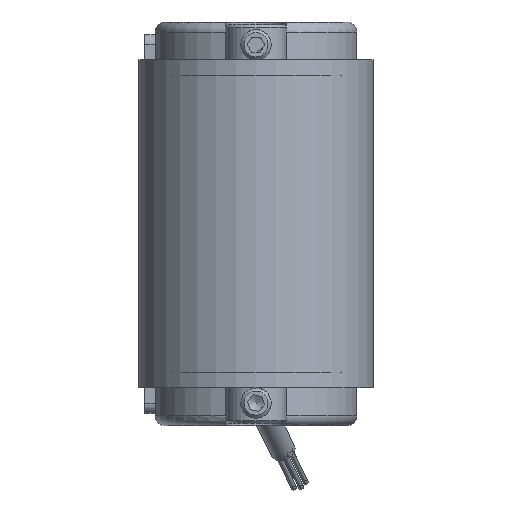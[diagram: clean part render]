
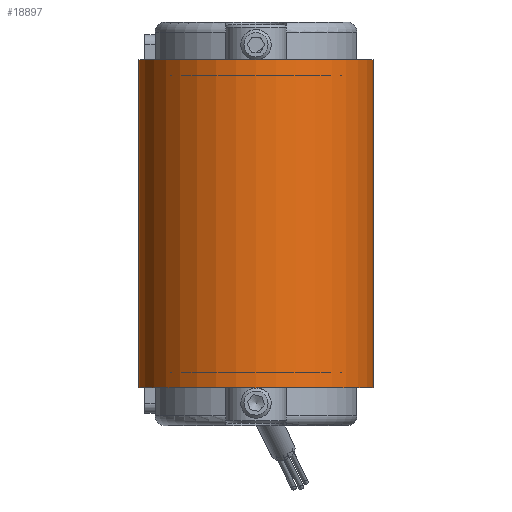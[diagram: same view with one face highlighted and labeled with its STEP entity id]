
A CAD part, front view. The second image highlights one B-rep face of the part: STEP entity #18897.
In plain terms, the highlighted cylindrical face has radius 23.3 mm (diameter 46.6 mm), a partial arc.
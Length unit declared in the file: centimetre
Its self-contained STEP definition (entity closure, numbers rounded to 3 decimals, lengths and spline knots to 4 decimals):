
#1478=FACE_OUTER_BOUND('',#2501,.T.);
#2501=EDGE_LOOP('',(#13037,#13038,#13039,#13040));
#3668=CIRCLE('',#20217,2.33);
#3671=CIRCLE('',#20223,2.33);
#4627=LINE('',#27806,#6163);
#4628=LINE('',#27810,#6164);
#6163=VECTOR('',#22807,1.);
#6164=VECTOR('',#22812,1.);
#7748=VERTEX_POINT('',#27789);
#7749=VERTEX_POINT('',#27790);
#7754=VERTEX_POINT('',#27804);
#7755=VERTEX_POINT('',#27808);
#9804=EDGE_CURVE('',#7748,#7749,#3668,.T.);
#9812=EDGE_CURVE('',#7754,#7749,#4627,.T.);
#9813=EDGE_CURVE('',#7754,#7755,#3671,.T.);
#9814=EDGE_CURVE('',#7748,#7755,#4628,.T.);
#13037=ORIENTED_EDGE('',*,*,#9813,.T.);
#13038=ORIENTED_EDGE('',*,*,#9814,.F.);
#13039=ORIENTED_EDGE('',*,*,#9804,.T.);
#13040=ORIENTED_EDGE('',*,*,#9812,.F.);
#17520=CYLINDRICAL_SURFACE('',#20222,2.33);
#18897=ADVANCED_FACE('',(#1478),#17520,.T.);
#20217=AXIS2_PLACEMENT_3D('',#27791,#22792,#22793);
#20222=AXIS2_PLACEMENT_3D('',#27807,#22808,#22809);
#20223=AXIS2_PLACEMENT_3D('',#27809,#22810,#22811);
#22792=DIRECTION('center_axis',(0.,0.,
-1.));
#22793=DIRECTION('ref_axis',(-1.,0.,0.));
#22807=DIRECTION('',(0.,0.,1.));
#22808=DIRECTION('center_axis',(0.,0.,
-1.));
#22809=DIRECTION('ref_axis',(-1.,0.,0.));
#22810=DIRECTION('center_axis',(0.,0.,
1.));
#22811=DIRECTION('ref_axis',(-1.,0.,0.));
#22812=DIRECTION('',(0.,0.,-1.));
#27789=CARTESIAN_POINT('',(2.33,-27.,3.25));
#27790=CARTESIAN_POINT('',(-2.33,-27.,3.25));
#27791=CARTESIAN_POINT('Origin',(0.,-27.,
3.25));
#27804=CARTESIAN_POINT('',(-2.33,-27.,-3.25));
#27806=CARTESIAN_POINT('',(-2.33,-27.,0.));
#27807=CARTESIAN_POINT('Origin',(0.,-27.,
0.));
#27808=CARTESIAN_POINT('',(2.33,-27.,-3.25));
#27809=CARTESIAN_POINT('Origin',(0.,-27.,
-3.25));
#27810=CARTESIAN_POINT('',(2.33,-27.,0.));
